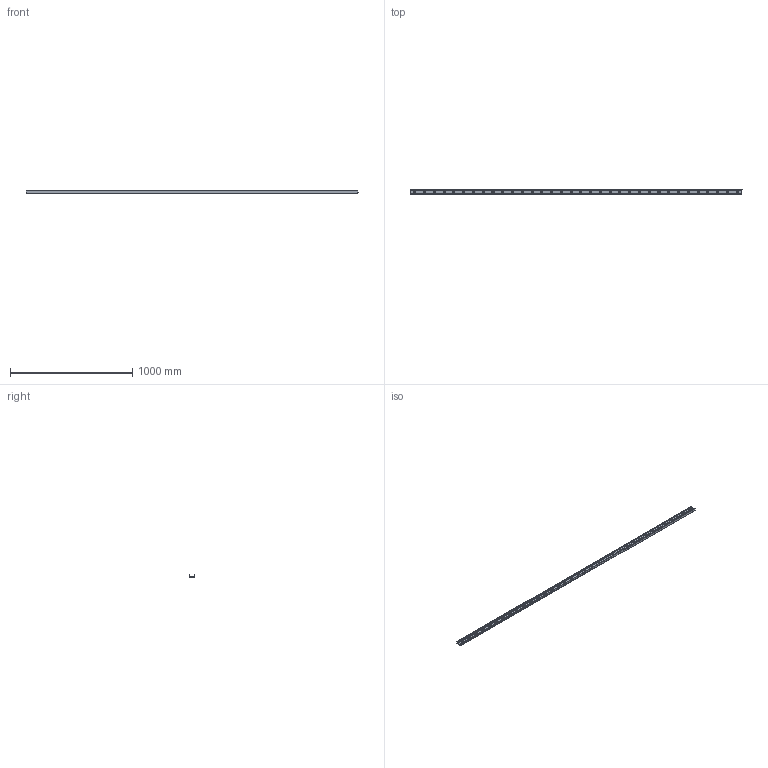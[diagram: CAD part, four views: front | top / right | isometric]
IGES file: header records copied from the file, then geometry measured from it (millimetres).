
Start section: SolidWorks IGES file using analytic representation for surfaces
Global section: file name: C:\Users\IanO\Desktop\43\L1943.ULV43_v2_20180121_IGES\L1943.ULV43-2720.igs; native system: SolidWorks 2017; preprocessor: SolidWorks 2017; author: IanO; date: 190121.090400; units: millimetre
Bounding box: 2720 x 43 x 21 mm (x, y, z)
Surface area: 422084.1 mm2 (no closed solid volume)
Topology: 0 solids, 0 shells, 162 faces, 3014 edges, 3014 vertices
Faces by surface type: revolution 149, bspline 13
